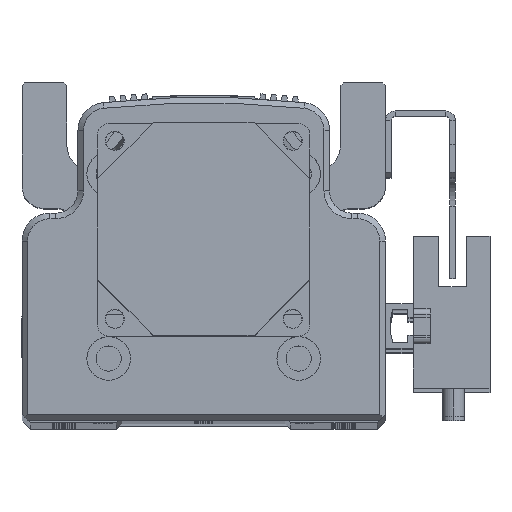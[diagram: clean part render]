
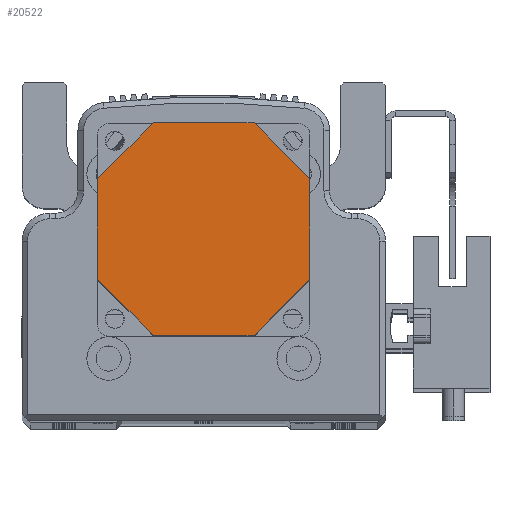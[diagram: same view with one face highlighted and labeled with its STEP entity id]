
A CAD part, top view. The second image highlights one B-rep face of the part: STEP entity #20522.
In plain terms, the highlighted planar face has unit normal (0, 0, 1) as drawn and (0, 0, -1) by its records, which use the part's own axes.
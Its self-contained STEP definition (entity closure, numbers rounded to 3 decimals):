
#82 = CARTESIAN_POINT ( 'NONE',  ( 0., 0., -84. ) ) ;
#97 = DIRECTION ( 'NONE',  ( 0., 0., 1. ) ) ;
#110 = PLANE ( 'NONE',  #31885 ) ;
#113 = DIRECTION ( 'NONE',  ( 1., 0., 0. ) ) ;
#4803 = EDGE_CURVE ( 'NONE', #34727, #34736, #23465, .T. ) ;
#4809 = EDGE_CURVE ( 'NONE', #34734, #34729, #23478, .T. ) ;
#4810 = EDGE_CURVE ( 'NONE', #34735, #34727, #23494, .T. ) ;
#4828 = EDGE_CURVE ( 'NONE', #34729, #34720, #23574, .T. ) ;
#4840 = EDGE_CURVE ( 'NONE', #34755, #34759, #23566, .T. ) ;
#4859 = EDGE_CURVE ( 'NONE', #34720, #34735, #23546, .T. ) ;
#4871 = EDGE_CURVE ( 'NONE', #34759, #34734, #23601, .T. ) ;
#4874 = EDGE_CURVE ( 'NONE', #34736, #34755, #23644, .T. ) ;
#7511 = CARTESIAN_POINT ( 'NONE',  ( 9., 19., -84. ) ) ;
#7512 = DIRECTION ( 'NONE',  ( 0.707, 0.707, 0. ) ) ;
#7517 = DIRECTION ( 'NONE',  ( 1., 0., 0. ) ) ;
#7528 = CARTESIAN_POINT ( 'NONE',  ( 9., -19., -84. ) ) ;
#7531 = CARTESIAN_POINT ( 'NONE',  ( -9., 19., -84. ) ) ;
#7544 = DIRECTION ( 'NONE',  ( -1., 0., 0. ) ) ;
#7555 = CARTESIAN_POINT ( 'NONE',  ( -9., -19., -84. ) ) ;
#7556 = DIRECTION ( 'NONE',  ( -0.707, 0.707, 0. ) ) ;
#7628 = CARTESIAN_POINT ( 'NONE',  ( 19., 9., -84. ) ) ;
#7629 = DIRECTION ( 'NONE',  ( 0., -1., 0. ) ) ;
#7636 = CARTESIAN_POINT ( 'NONE',  ( -19., 9., -84. ) ) ;
#7644 = DIRECTION ( 'NONE',  ( 0.707, -0.707, 0. ) ) ;
#7647 = CARTESIAN_POINT ( 'NONE',  ( 19., -9., -84. ) ) ;
#7663 = DIRECTION ( 'NONE',  ( 0., 1., 0. ) ) ;
#7666 = CARTESIAN_POINT ( 'NONE',  ( 19., 9., -84. ) ) ;
#7673 = DIRECTION ( 'NONE',  ( -0.707, -0.707, 0. ) ) ;
#11780 = FACE_OUTER_BOUND ( 'NONE', #22691, .T. ) ;
#13202 = ORIENTED_EDGE ( 'NONE', *, *, #4810, .T. ) ;
#13228 = ORIENTED_EDGE ( 'NONE', *, *, #4809, .T. ) ;
#13235 = ORIENTED_EDGE ( 'NONE', *, *, #4803, .T. ) ;
#13242 = ORIENTED_EDGE ( 'NONE', *, *, #4859, .T. ) ;
#13251 = ORIENTED_EDGE ( 'NONE', *, *, #4840, .T. ) ;
#13276 = ORIENTED_EDGE ( 'NONE', *, *, #4871, .T. ) ;
#13292 = ORIENTED_EDGE ( 'NONE', *, *, #4828, .T. ) ;
#13317 = ORIENTED_EDGE ( 'NONE', *, *, #4874, .T. ) ;
#20522 = ADVANCED_FACE ( 'NONE', ( #11780 ), #110, .F. ) ;
#21511 = CARTESIAN_POINT ( 'NONE',  ( -9., -19., -84. ) ) ;
#21515 = CARTESIAN_POINT ( 'NONE',  ( 9., -19., -84. ) ) ;
#21532 = CARTESIAN_POINT ( 'NONE',  ( -9., 19., -84. ) ) ;
#21540 = CARTESIAN_POINT ( 'NONE',  ( -19., 9., -84. ) ) ;
#21548 = CARTESIAN_POINT ( 'NONE',  ( 9., 19., -84. ) ) ;
#21565 = CARTESIAN_POINT ( 'NONE',  ( -19., -9., -84. ) ) ;
#21578 = CARTESIAN_POINT ( 'NONE',  ( 19., 9., -84. ) ) ;
#21589 = CARTESIAN_POINT ( 'NONE',  ( 19., -9., -84. ) ) ;
#22691 = EDGE_LOOP ( 'NONE', ( #13292, #13242, #13202, #13235, #13317, #13251, #13276, #13228 ) ) ;
#23465 = LINE ( 'NONE', #7511, #23476 ) ;
#23476 = VECTOR ( 'NONE', #7517, 1000. ) ;
#23478 = LINE ( 'NONE', #7528, #23489 ) ;
#23489 = VECTOR ( 'NONE', #7544, 1000. ) ;
#23494 = LINE ( 'NONE', #7531, #23509 ) ;
#23509 = VECTOR ( 'NONE', #7512, 1000. ) ;
#23528 = VECTOR ( 'NONE', #7556, 1000. ) ;
#23546 = LINE ( 'NONE', #7636, #23592 ) ;
#23566 = LINE ( 'NONE', #7628, #23578 ) ;
#23574 = LINE ( 'NONE', #7555, #23528 ) ;
#23578 = VECTOR ( 'NONE', #7629, 1000. ) ;
#23592 = VECTOR ( 'NONE', #7663, 1000. ) ;
#23601 = LINE ( 'NONE', #7647, #23641 ) ;
#23604 = VECTOR ( 'NONE', #7644, 1000. ) ;
#23641 = VECTOR ( 'NONE', #7673, 1000. ) ;
#23644 = LINE ( 'NONE', #7666, #23604 ) ;
#31885 = AXIS2_PLACEMENT_3D ( 'NONE', #82, #97, #113 ) ;
#34720 = VERTEX_POINT ( 'NONE', #21565 ) ;
#34727 = VERTEX_POINT ( 'NONE', #21532 ) ;
#34729 = VERTEX_POINT ( 'NONE', #21511 ) ;
#34734 = VERTEX_POINT ( 'NONE', #21515 ) ;
#34735 = VERTEX_POINT ( 'NONE', #21540 ) ;
#34736 = VERTEX_POINT ( 'NONE', #21548 ) ;
#34755 = VERTEX_POINT ( 'NONE', #21578 ) ;
#34759 = VERTEX_POINT ( 'NONE', #21589 ) ;
